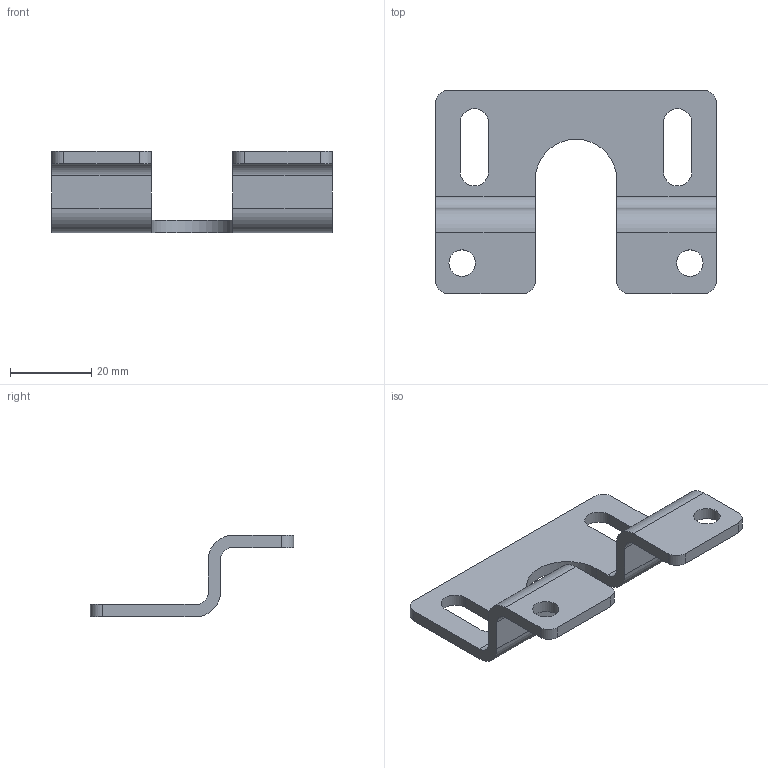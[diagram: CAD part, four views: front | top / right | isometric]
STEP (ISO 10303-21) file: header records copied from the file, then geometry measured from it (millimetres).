
FILE_DESCRIPTION((''),'2;1');
FILE_NAME('F:\AirCom-Produktdokumentation\Befestigungswinkel-Muttern\CAD\CAD AirCom\3D\B-BW00-16.stp','2008-09-29T15:45:24',('Frank Schroers'),(''),'Autodesk Inventor 2008','Autodesk Inventor 2008','');
FILE_SCHEMA(('AUTOMOTIVE_DESIGN { 1 0 10303 214 1 1 1 1 }'));
Length unit declared in the file: millimetre
Products named in the file (1): B-BW00-16
Bounding box: 69 x 50 x 20 mm (x, y, z)
Volume: 9161.2 mm3; surface area: 7556.6 mm2
Topology: 1 solids, 1 shells, 42 faces, 120 edges, 80 vertices
Faces by surface type: cylinder 21, plane 21
Full cylindrical faces by diameter (mm): 6.5 x2
Entity records: 1418 total; most frequent: DIRECTION 246, CARTESIAN_POINT 241, ORIENTED_EDGE 236, EDGE_CURVE 118, AXIS2_PLACEMENT_3D 85, VERTEX_POINT 80, VECTOR 76, LINE 76
